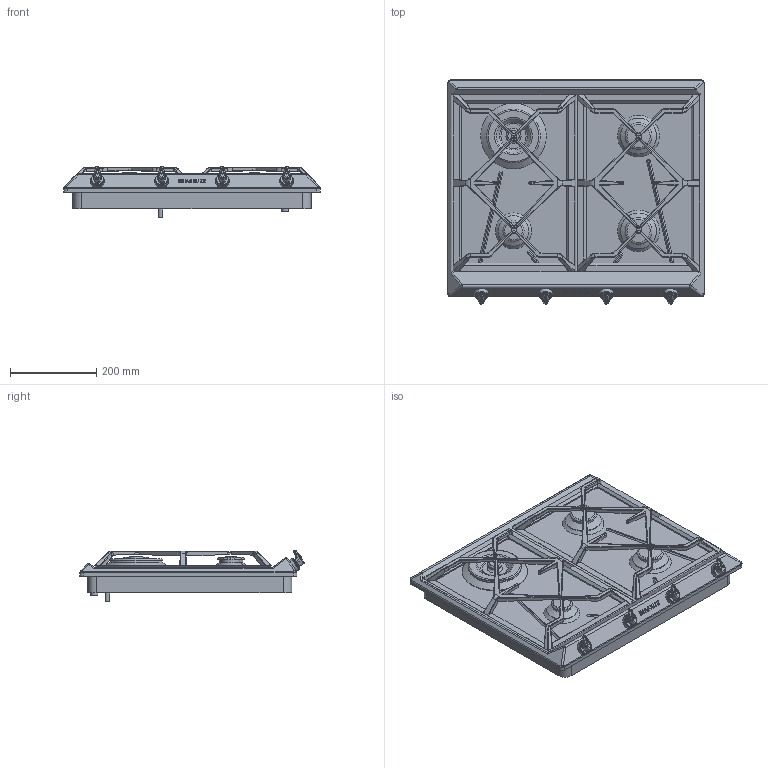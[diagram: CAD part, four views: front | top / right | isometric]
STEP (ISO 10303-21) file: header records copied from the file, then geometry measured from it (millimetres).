
FILE_DESCRIPTION(/* description */ (''),/* implementation_level */ '2;1');
FILE_NAME(/* name */ 'piano sr964xgh.stp',/* time_stamp */ '2019-02-18T12:14:58+01:00',/* author */ (''),/* organization */ (''),/* preprocessor_version */ 'ST-DEVELOPER v16',/* originating_system */ 'SIEMENS PLM Software NX 11.0',/* authorisation */ '');
FILE_SCHEMA (('AUTOMOTIVE_DESIGN { 1 0 10303 214 3 1 1 1 }'));
Length unit declared in the file: millimetre
Products named in the file (1): gobb393C6F9C4bgi
Bounding box: 596 x 520.36 x 118.73 mm (x, y, z)
Volume: 16012550.8 mm3; surface area: 1714999.3 mm2
Topology: 24 solids, 24 shells, 1053 faces, 2581 edges, 1553 vertices
Faces by surface type: plane 444, cylinder 349, bspline 108, torus 88, sphere 36, cone 20, extrusion 8
Full cylindrical faces by diameter (mm): 9.8 x8, 10 x5, 15 x4, 16 x2, 25 x1, 28 x4, 32 x4, 33 x1, 42 x1, 43 x1, 55 x2, 56 x2, 70.5 x1, 83 x2, 111 x1, 113.5 x1, 122 x1, 152 x1
Entity records: 34275 total; most frequent: CARTESIAN_POINT 9878, DIRECTION 5204, ORIENTED_EDGE 4912, EDGE_CURVE 2456, AXIS2_PLACEMENT_3D 1962, VERTEX_POINT 1536, VECTOR 1280, LINE 1272
